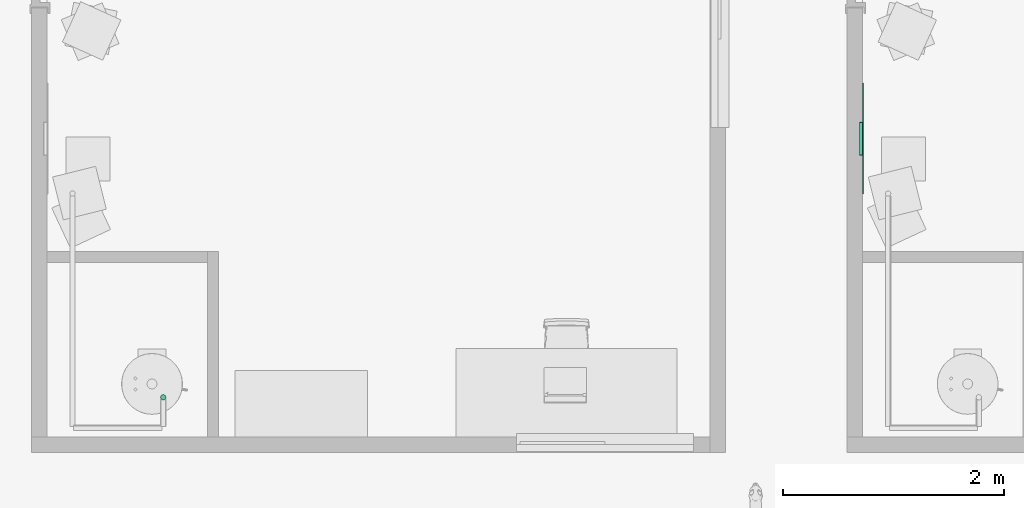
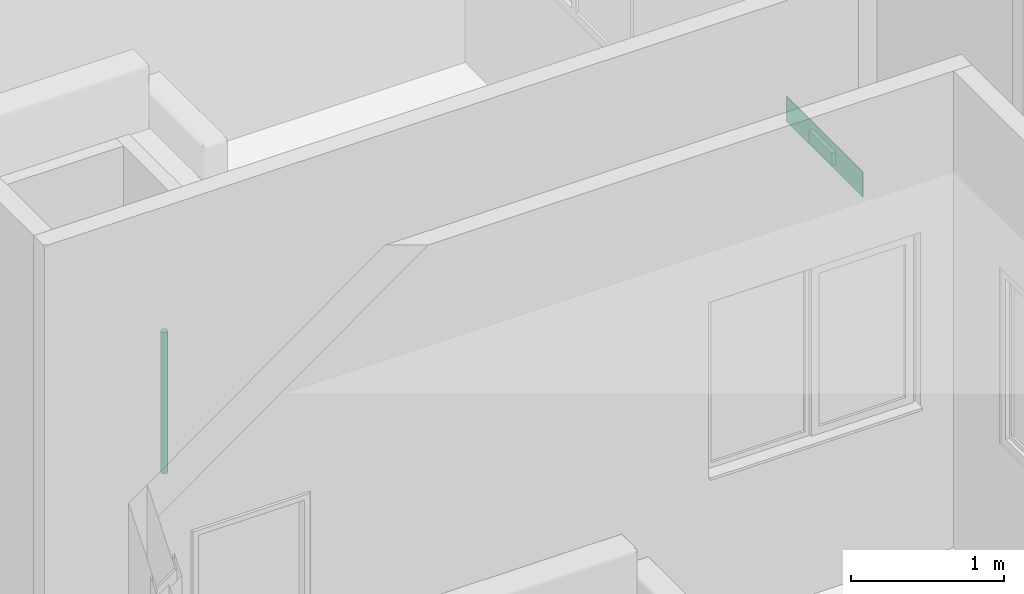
# One storey, part 30 of 69: 1 air terminal, 1 pipe segment.
"""IFC4 building model written with IfcOpenShell, lengths in centimetres."""

from ifc_helpers import new_model, entity, si_unit, converted_unit, derived_unit, direction, frame, origin, place, context, subcontext, project, spatial, arc, indexed_curve, outline, extrude, source, transform, mapped, material, constituent, constituent_set, type_object, type_shapes, element, save


model = new_model("IFC4")

# Units and contexts
model_context = context("Model", 3, precision=0.001, world=origin(), true_north=direction((6.123233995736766e-17, 1.0)))
body_context = subcontext(model_context, "Body", "Model", "MODEL_VIEW")
ifc_project = project(units=[si_unit("LENGTHUNIT", "METRE", prefix="CENTI"), si_unit("AREAUNIT", "SQUARE_METRE"), si_unit("VOLUMEUNIT", "CUBIC_METRE"), derived_unit("THERMALTRANSMITTANCEUNIT", [(si_unit("MASSUNIT", "GRAM", prefix="KILO"), 1), (si_unit("THERMODYNAMICTEMPERATUREUNIT", "KELVIN"), -1), (si_unit("TIMEUNIT", "SECOND"), -3)]), converted_unit("PLANEANGLEUNIT", "DEGREE", entity("IfcPlaneAngleMeasure", 0.017453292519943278), si_unit("PLANEANGLEUNIT", "RADIAN"), dimensions=[0, 0, 0, 0, 0, 0, 0]), derived_unit("MASSDENSITYUNIT", [(si_unit("MASSUNIT", "GRAM", prefix="KILO"), 1), (si_unit("LENGTHUNIT", "METRE"), -3)]), derived_unit("VAPORPERMEABILITYUNIT", [(si_unit("LENGTHUNIT", "METRE"), -1), (si_unit("TIMEUNIT", "SECOND"), 1)]), derived_unit("USERDEFINED", [(si_unit("MASSUNIT", "GRAM", prefix="KILO"), 1), (si_unit("TIMEUNIT", "SECOND"), -3), (si_unit("LENGTHUNIT", "METRE"), 3), (si_unit("ELECTRICCURRENTUNIT", "AMPERE"), -2)]), derived_unit("SPECIFICHEATCAPACITYUNIT", [(si_unit("THERMODYNAMICTEMPERATUREUNIT", "KELVIN"), -1), (si_unit("LENGTHUNIT", "METRE"), 2), (si_unit("TIMEUNIT", "SECOND"), -2)]), derived_unit("THERMALCONDUCTANCEUNIT", [(si_unit("MASSUNIT", "GRAM", prefix="KILO"), 1), (si_unit("THERMODYNAMICTEMPERATUREUNIT", "KELVIN"), -1), (si_unit("TIMEUNIT", "SECOND"), -3), (si_unit("LENGTHUNIT", "METRE"), 1)]), si_unit("PRESSUREUNIT", "PASCAL"), derived_unit("MODULUSOFELASTICITYUNIT", [(si_unit("MASSUNIT", "GRAM", prefix="KILO"), 1), (si_unit("LENGTHUNIT", "METRE"), -1), (si_unit("TIMEUNIT", "SECOND"), -2)]), derived_unit("THERMALEXPANSIONCOEFFICIENTUNIT", [(si_unit("THERMODYNAMICTEMPERATUREUNIT", "KELVIN"), -1)])], contexts=[model_context])

# Site, building, storey, space
site_placement = place(None, origin())
site = spatial("IfcSite", under=ifc_project, at=site_placement, Name="Default", CompositionType="ELEMENT")
building_placement = place(site_placement, origin())
building = spatial("IfcBuilding", under=site, at=building_placement, Name="IDS Escape Game Building", CompositionType="ELEMENT")
storey_placement = place(building_placement, origin())
storey = spatial("IfcBuildingStorey", under=building, at=storey_placement, Name="00_Ground Floor", CompositionType="ELEMENT", Elevation=0.0)
space_placement = place(storey_placement, origin())
space = spatial("IfcSpace", under=storey, at=space_placement, Name="32", CompositionType="ELEMENT", PredefinedType="NOTDEFINED")

# Air terminal
ifc_material_1 = material(Name="TB_LVC_referentievlak_00_gen_BERSnl", Category="BE Default")
ifc_constituent_1 = constituent(ifc_material_1, Name="TB_LVC_referentievlak_00_gen_BERSnl", Category="BE Default", fraction=0.00014157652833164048)
ifc_material_2 = material(Name="ARC_FME.h2_staal_00_gen_BERSnl", Category="h - metaal")
ifc_constituent_2 = constituent(ifc_material_2, Name="ARC_FME.h2_staal_00_gen_BERSnl", Category="h - metaal", fraction=0.9998584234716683)
ifc_constituent_set_1 = constituent_set(constituents=[ifc_constituent_1, ifc_constituent_2])
ifc_constituent_3 = constituent(ifc_material_1, Name="BE Referentievlak", Category="BE Default", fraction=0.00014157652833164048)
ifc_constituent_4 = constituent(ifc_material_2, Name="Terminals", Category="h - metaal", fraction=0.9998584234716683)
ifc_constituent_set_2 = constituent_set(constituents=[ifc_constituent_3, ifc_constituent_4])
air_terminal_type = type_object("IfcAirTerminalType", Name="TB_57_AIR_FB_aanzuigrooster - 1 rechthoekige aansluiting - calculated flow_gen_BERSnl:Air Terminal - Exhaust", PredefinedType="GRILLE", material=ifc_constituent_set_2)
shared_shape = source(origin(), body_context, "Body", "SweptSolid", [
    extrude(outline(indexed_curve([(-0.5, -2.0290176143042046e-15), (6.8507733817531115e-16, -0.5000000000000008), (0.5, 2.0290176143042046e-15), (-5.361679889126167e-16, 0.49999999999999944)], segments=[arc(1, 2, 3), arc(3, 4, 1)], self_intersect=False)), frame((0.0, 0.0, 0.0), z_axis=(1.7453292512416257e-05, 0.0, 1.0), x_axis=(0.0, 1.0, 0.0)), (0.0, 0.0, 1.0), 0.09999999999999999),
    extrude(outline(indexed_curve([(-14.900000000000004, -4.9), (14.900000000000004, -4.9), (14.900000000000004, 4.9), (-14.900000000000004, 4.9), (-14.900000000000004, -4.9)], self_intersect=False)), frame((-4.886921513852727e-05, 0.0, -2.7999999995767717)), (0.0, 0.0, 1.0), 2.7999999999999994),
    extrude(outline(indexed_curve([(-50.0, -10.0), (50.0, -10.0), (50.0, 10.0), (-50.0, 10.0), (-50.0, -10.0)], self_intersect=False)), frame((0.0, 0.0, 0.0), z_axis=(0.0, 0.0, 1.0), x_axis=(-1.0, 0.0, 0.0)), (0.0, 0.0, 1.0), 0.6999999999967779),
])
type_shapes(air_terminal_type, [shared_shape])
air_terminal_placement = place(space_placement, frame((2221.0, 2835.0, 24.0), z_axis=(1.0, 0.0, 0.0), x_axis=(0.0, 1.0, 0.0)))
element("IfcAirTerminal", 1, at=air_terminal_placement, inside=space, type_object=air_terminal_type, material=ifc_constituent_set_1, Name="TB_57_AIR_FB_aanzuigrooster - 1 rechthoekige aansluiting - calculated flow_gen_BERSnl:Air Terminal - Exhaust", ObjectType="TB_57_AIR_FB_aanzuigrooster - 1 rechthoekige aansluiting - calculated flow_gen_BERSnl:Air Terminal - Exhaust", PredefinedType="GRILLE", context=body_context, shape_type="MappedRepresentation", body=[
    mapped(shared_shape, transform((0.0, 0.0, 0.0), scale=1.0)),
])

# Pipe segment
pipe_segment_type = type_object("IfcPipeSegmentType", Name="Pipe Types:Piping Aluminum", PredefinedType="NOTDEFINED")
pipe_segment_placement = place(storey_placement, origin())
element("IfcPipeSegment", 2, at=pipe_segment_placement, inside=storey, type_object=pipe_segment_type, Name="Pipe Types:Piping Aluminum", ObjectType="Pipe Types:Piping Aluminum", PredefinedType="NOTDEFINED", context=body_context, shape_type="SweptSolid", body=[
    extrude(outline(indexed_curve([(2.412999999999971, -4.331468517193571e-13), (1.7062486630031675, 1.7062486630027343), (0.0, 2.412999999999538), (-1.7062486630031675, 1.7062486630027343), (-2.412999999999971, -4.331468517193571e-13), (-1.7062486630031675, -1.7062486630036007), (0.0, -2.4130000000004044), (1.7062486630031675, -1.7062486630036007)], segments=[arc(1, 2, 3), arc(3, 4, 5), arc(5, 6, 7), arc(7, 8, 1)], self_intersect=False)), frame((1588.1500000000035, 2600.900000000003, 128.0), z_axis=(0.0, 0.0, 1.0), x_axis=(-1.0, 0.0, 0.0)), (0.0, 0.0, 1.0), 112.90000000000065),
])

save(model, "model.ifc")
